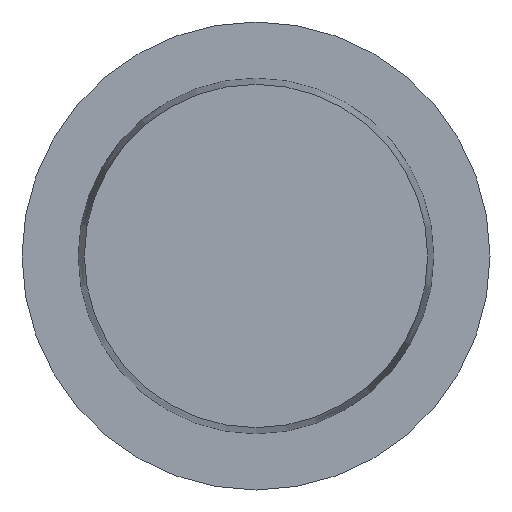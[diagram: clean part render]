
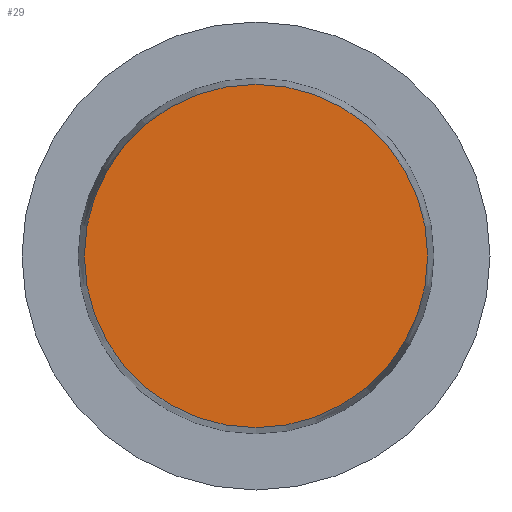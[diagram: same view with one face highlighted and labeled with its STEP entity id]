
A CAD part, front view. The second image highlights one B-rep face of the part: STEP entity #29.
In plain terms, the highlighted planar face has unit normal (0, -1, 0).
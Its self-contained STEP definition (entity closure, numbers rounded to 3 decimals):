
#11 = CARTESIAN_POINT ( 'NONE',  ( 0., 0., 0. ) ) ;
#29 = ADVANCED_FACE ( 'NONE', ( #277 ), #136, .T. ) ;
#55 = AXIS2_PLACEMENT_3D ( 'NONE', #11, #309, #137 ) ;
#72 = AXIS2_PLACEMENT_3D ( 'NONE', #317, #349, #259 ) ;
#82 = DIRECTION ( 'NONE',  ( 0., 0., -1. ) ) ;
#134 = VERTEX_POINT ( 'NONE', #192 ) ;
#136 = PLANE ( 'NONE',  #260 ) ;
#137 = DIRECTION ( 'NONE',  ( 0., 0., -1. ) ) ;
#153 = EDGE_LOOP ( 'NONE', ( #225, #198 ) ) ;
#160 = DIRECTION ( 'NONE',  ( 0., -1., 0. ) ) ;
#192 = CARTESIAN_POINT ( 'NONE',  ( 0., 0., 14.675 ) ) ;
#198 = ORIENTED_EDGE ( 'NONE', *, *, #240, .T. ) ;
#225 = ORIENTED_EDGE ( 'NONE', *, *, #265, .T. ) ;
#240 = EDGE_CURVE ( 'NONE', #313, #134, #241, .T. ) ;
#241 = CIRCLE ( 'NONE', #55, 14.675 ) ;
#259 = DIRECTION ( 'NONE',  ( 0., 0., -1. ) ) ;
#260 = AXIS2_PLACEMENT_3D ( 'NONE', #303, #160, #82 ) ;
#265 = EDGE_CURVE ( 'NONE', #134, #313, #293, .T. ) ;
#277 = FACE_OUTER_BOUND ( 'NONE', #153, .T. ) ;
#293 = CIRCLE ( 'NONE', #72, 14.675 ) ;
#303 = CARTESIAN_POINT ( 'NONE',  ( 0., 0., 0. ) ) ;
#309 = DIRECTION ( 'NONE',  ( 0., -1., 0. ) ) ;
#313 = VERTEX_POINT ( 'NONE', #350 ) ;
#317 = CARTESIAN_POINT ( 'NONE',  ( 0., 0., 0. ) ) ;
#349 = DIRECTION ( 'NONE',  ( 0., -1., 0. ) ) ;
#350 = CARTESIAN_POINT ( 'NONE',  ( 0., 0., -14.675 ) ) ;
